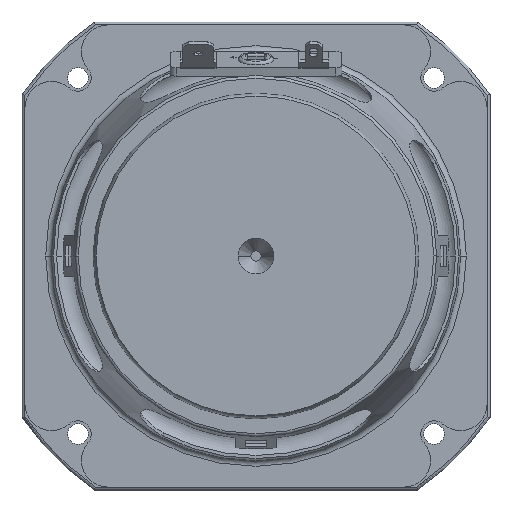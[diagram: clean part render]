
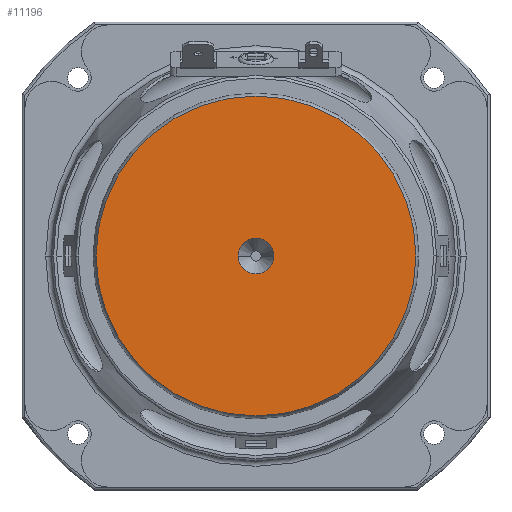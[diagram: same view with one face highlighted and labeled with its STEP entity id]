
A CAD part, front view. The second image highlights one B-rep face of the part: STEP entity #11196.
In plain terms, the highlighted planar face has unit normal (0, -1, 0).
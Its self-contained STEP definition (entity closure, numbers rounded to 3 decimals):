
#10882=CARTESIAN_POINT('',(0.,0.,0.));
#10883=DIRECTION('',(0.,-1.,0.));
#10884=DIRECTION('',(1.,0.,0.));
#10885=AXIS2_PLACEMENT_3D('',#10882,#10883,#10884);
#10890=CARTESIAN_POINT('',(0.,0.,0.));
#10891=DIRECTION('',(0.,1.,0.));
#10892=DIRECTION('',(1.,0.,0.));
#10893=AXIS2_PLACEMENT_3D('',#10890,#10891,#10892);
#10914=CARTESIAN_POINT('',(0.,0.,0.));
#10915=DIRECTION('',(0.,1.,0.));
#10916=DIRECTION('',(1.,0.,0.));
#10917=AXIS2_PLACEMENT_3D('',#10914,#10915,#10916);
#10922=CARTESIAN_POINT('',(0.,0.,0.));
#10923=DIRECTION('',(0.,-1.,0.));
#10924=DIRECTION('',(1.,0.,0.));
#10925=AXIS2_PLACEMENT_3D('',#10922,#10923,#10924);
#11085=CARTESIAN_POINT('',(3.,0.,0.));
#11087=VERTEX_POINT('',#11085);
#11088=CARTESIAN_POINT('',(27.,0.,0.));
#11090=VERTEX_POINT('',#11088);
#11099=CARTESIAN_POINT('',(-3.,0.,0.));
#11101=VERTEX_POINT('',#11099);
#11102=CARTESIAN_POINT('',(-27.,0.,0.));
#11104=VERTEX_POINT('',#11102);
#11181=CARTESIAN_POINT('',(0.,0.,0.));
#11182=DIRECTION('',(0.,-1.,0.));
#11183=DIRECTION('',(-1.,0.,0.));
#11184=AXIS2_PLACEMENT_3D('',#11181,#11182,#11183);
#11185=PLANE('',#11184);
#11187=ORIENTED_EDGE('',*,*,#11186,.T.);
#11189=ORIENTED_EDGE('',*,*,#11188,.F.);
#11190=EDGE_LOOP('',(#11187,#11189));
#11191=FACE_OUTER_BOUND('',#11190,.F.);
#11192=ORIENTED_EDGE('',*,*,#11169,.T.);
#11193=ORIENTED_EDGE('',*,*,#11146,.F.);
#11194=EDGE_LOOP('',(#11192,#11193));
#11195=FACE_BOUND('',#11194,.F.);
#11196=ADVANCED_FACE('',(#11191,#11195),#11185,.T.);
#10886=CIRCLE('',#10885,3.);
#10894=CIRCLE('',#10893,3.);
#10918=CIRCLE('',#10917,27.);
#10926=CIRCLE('',#10925,27.);
#11146=EDGE_CURVE('',#11087,#11101,#10894,.T.);
#11169=EDGE_CURVE('',#11087,#11101,#10886,.T.);
#11186=EDGE_CURVE('',#11090,#11104,#10918,.T.);
#11188=EDGE_CURVE('',#11090,#11104,#10926,.T.);
